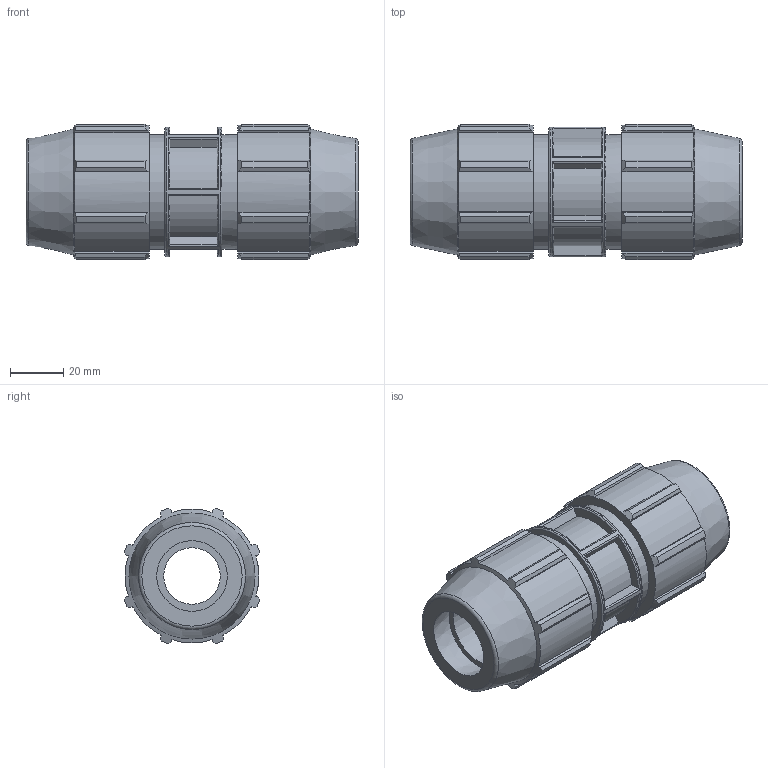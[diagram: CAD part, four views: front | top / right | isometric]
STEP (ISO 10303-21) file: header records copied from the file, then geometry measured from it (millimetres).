
FILE_DESCRIPTION(/* description */ ('PLASSON COUPLER 3/4'''' - 25mm'),/* implementation_level */ '2;1');
FILE_NAME(/* name */ 'C:\Dropbox\KIMPROJECTS-Inventor 2019\99-16-3568-Processing Inch\ASTM Compression 2021\0701M\0701M007.ipt.stp',/* time_stamp */ '2021-08-26T12:29:16+03:00',/* author */ ('KIM'),/* organization */ (''),/* preprocessor_version */ 'ST-DEVELOPER v17.2',/* originating_system */ 'Autodesk Inventor 2019',/* authorisation */ '');
FILE_SCHEMA (('AUTOMOTIVE_DESIGN { 1 0 10303 214 3 1 1 }'));
Length unit declared in the file: inch
Products named in the file (1): 0701M007
Bounding box: 124.97 x 50.91 x 50.91 mm (x, y, z)
Volume: 149810.7 mm3; surface area: 35778.8 mm2
Topology: 1 solids, 1 shells, 193 faces, 552 edges, 375 vertices
Faces by surface type: plane 98, cylinder 56, cone 23, torus 16
Full cylindrical faces by diameter (mm): 21.28 x1, 25 x1, 26.6 x1, 43.282 x2, 48.692 x1
Entity records: 6840 total; most frequent: CARTESIAN_POINT 1633, ORIENTED_EDGE 1104, DIRECTION 1003, EDGE_CURVE 552, VERTEX_POINT 375, AXIS2_PLACEMENT_3D 369, LINE 265, VECTOR 265
